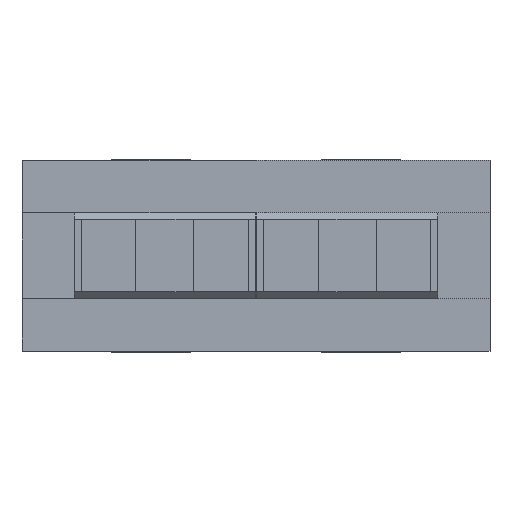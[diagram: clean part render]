
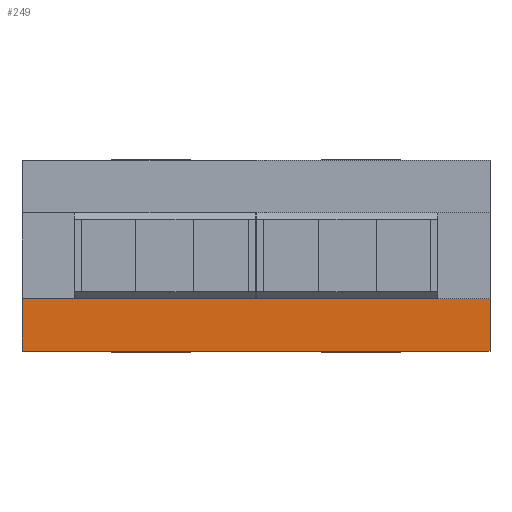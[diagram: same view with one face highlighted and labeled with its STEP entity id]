
A CAD part, top view. The second image highlights one B-rep face of the part: STEP entity #249.
In plain terms, the highlighted planar face has unit normal (0, 0, 1).
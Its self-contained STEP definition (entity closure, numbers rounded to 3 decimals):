
#249 = ADVANCED_FACE( '', ( #623 ), #624, .F. );
#623 = FACE_OUTER_BOUND( '', #1187, .T. );
#624 = PLANE( '', #1188 );
#1187 = EDGE_LOOP( '', ( #1758, #1759, #1760, #1761 ) );
#1188 = AXIS2_PLACEMENT_3D( '', #1762, #1763, #1764 );
#1758 = ORIENTED_EDGE( '', *, *, #3156, .T. );
#1759 = ORIENTED_EDGE( '', *, *, #3157, .F. );
#1760 = ORIENTED_EDGE( '', *, *, #3158, .F. );
#1761 = ORIENTED_EDGE( '', *, *, #3159, .T. );
#1762 = CARTESIAN_POINT( '', ( 48.5, -8.9, 79. ) );
#1763 = DIRECTION( '', ( 0., 0., -1. ) );
#1764 = DIRECTION( '', ( -1., 0., 0. ) );
#3156 = EDGE_CURVE( '', #3714, #3715, #3716, .T. );
#3157 = EDGE_CURVE( '', #3717, #3715, #3718, .T. );
#3158 = EDGE_CURVE( '', #3719, #3717, #3720, .T. );
#3159 = EDGE_CURVE( '', #3719, #3714, #3721, .T. );
#3714 = VERTEX_POINT( '', #4532 );
#3715 = VERTEX_POINT( '', #4533 );
#3716 = LINE( '', #4534, #4535 );
#3717 = VERTEX_POINT( '', #4536 );
#3718 = LINE( '', #4537, #4538 );
#3719 = VERTEX_POINT( '', #4539 );
#3720 = LINE( '', #4540, #4541 );
#3721 = LINE( '', #4542, #4543 );
#4532 = CARTESIAN_POINT( '', ( -48.5, -8.9, 79. ) );
#4533 = CARTESIAN_POINT( '', ( -48.5, -19.8, 79. ) );
#4534 = CARTESIAN_POINT( '', ( -48.5, -8.9, 79. ) );
#4535 = VECTOR( '', #5608, 1000. );
#4536 = CARTESIAN_POINT( '', ( 48.5, -19.8, 79. ) );
#4537 = CARTESIAN_POINT( '', ( 48.5, -19.8, 79. ) );
#4538 = VECTOR( '', #5609, 1000. );
#4539 = CARTESIAN_POINT( '', ( 48.5, -8.9, 79. ) );
#4540 = CARTESIAN_POINT( '', ( 48.5, -8.9, 79. ) );
#4541 = VECTOR( '', #5610, 1000. );
#4542 = CARTESIAN_POINT( '', ( 48.5, -8.9, 79. ) );
#4543 = VECTOR( '', #5611, 1000. );
#5608 = DIRECTION( '', ( 0., -1., 0. ) );
#5609 = DIRECTION( '', ( -1., 0., 0. ) );
#5610 = DIRECTION( '', ( 0., -1., 0. ) );
#5611 = DIRECTION( '', ( -1., 0., 0. ) );
